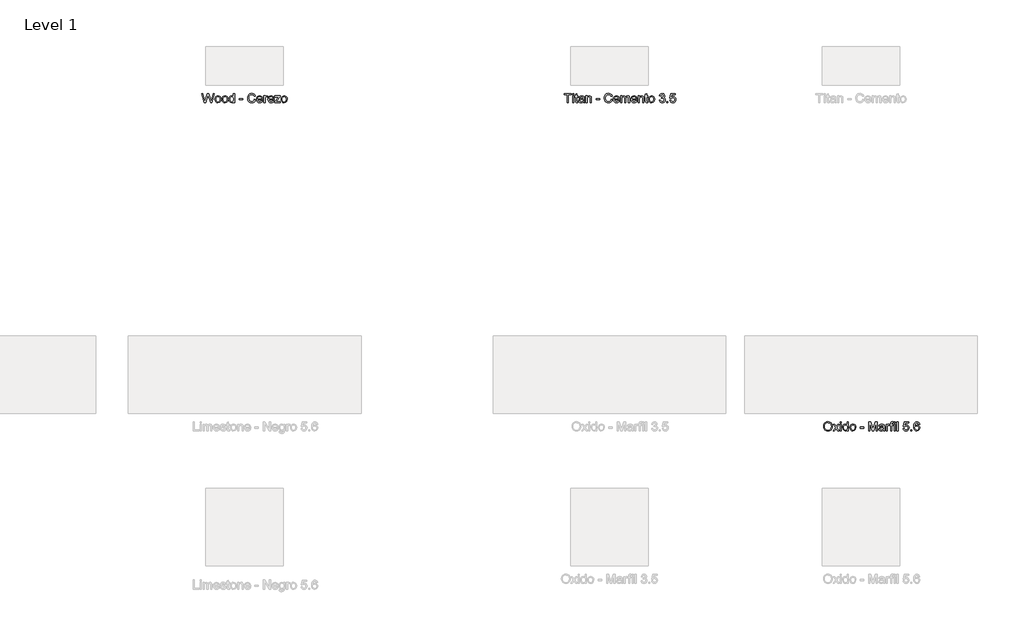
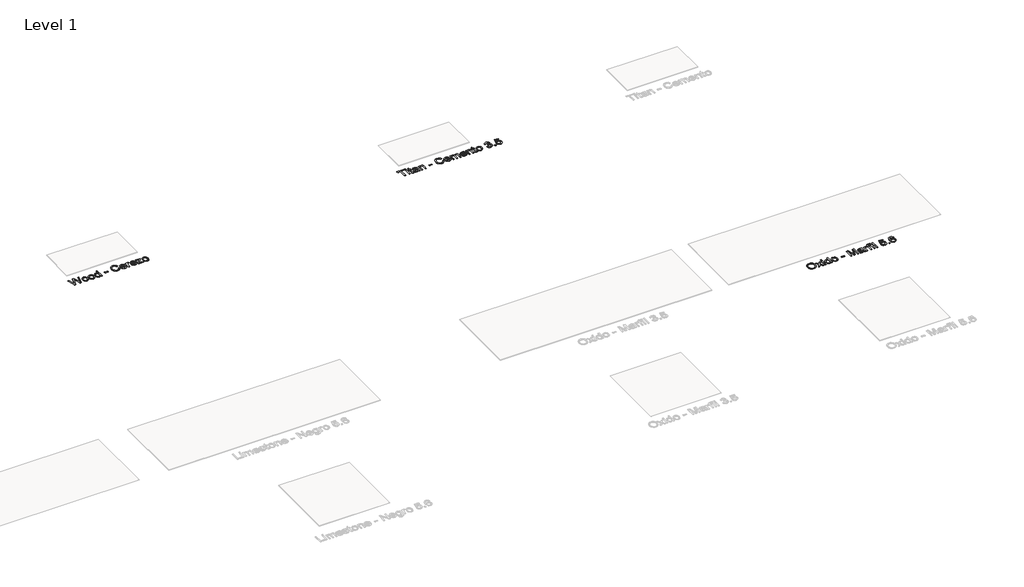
# One storey, part 31 of 80: 3 proxies.
"""IFC4 building model written with IfcOpenShell, lengths in millimetres."""

from ifc_helpers import new_model, si_unit, origin, origin_with_axes, place, context, project, spatial, polyline, outline, extrude, element, save

model = new_model("IFC4")

# Units and contexts
model_context = context("Model", 3, world=origin())
ifc_project = project(units=[si_unit("LENGTHUNIT", "METRE", prefix="MILLI")], contexts=[model_context])

# Site, building, storey
site = spatial("IfcSite", under=ifc_project)
building = spatial("IfcBuilding", under=site)
storey = spatial("IfcBuildingStorey", under=building, Name="Level 1", Elevation=0.0)

# Proxies
placement = place(None, origin())
element("IfcBuildingElementProxy", 1, Name="24\" Arial", ObjectType="24\" Arial", at=placement, inside=storey, context=model_context, shape_type="SweptSolid", body=[
    extrude(outline(polyline([(8292.6161998, -16597.3504862), (8296.5536998, -16571.2230824), (8308.3661998, -16551.4562555), (8326.4022575, -16539.0163516), (8349.0104306, -16534.869717), (8364.5080267, -16536.8168324), (8378.4046613, -16542.6581785), (8389.9431229, -16551.9826978), (8398.3661998, -16564.3793324), (8403.5152383, -16579.2495247), (8405.2315844, -16595.994717), (8403.425094, -16612.963467), (8398.0056229, -16628.0427939), (8389.2724498, -16640.4610632), (8377.5248536, -16649.4466401), (8363.7472094, -16654.8985632), (8348.9238921, -16656.7158709), (8333.1883152, -16654.7074574), (8319.2123536, -16648.682217), (8307.7027383, -16639.1846209), (8299.3661998, -16626.7591401), (8294.3036998, -16612.4622651), (8292.6161998, -16597.3504862)]), holes=[polyline([(8307.3854306, -16597.494717), (8310.3385556, -16615.9778901), (8319.1979306, -16630.0620247), (8332.5140363, -16638.9754862), (8348.8373536, -16641.9466401), (8365.3986517, -16638.9466401), (8378.7363921, -16629.9466401), (8387.5308633, -16615.4298132), (8390.4623536, -16595.8793324), (8385.4431229, -16571.5043324), (8379.2664402, -16562.2627459), (8370.7748536, -16555.3649093), (8349.096969, -16549.6389478), (8333.2099498, -16552.3973612), (8319.7027383, -16560.6726016), (8310.4647575, -16575.3949574), (8307.3854306, -16597.494717)])]), origin_with_axes(), (0.0, 0.0, 1.0), 2.0),
    extrude(outline(polyline([(8414.4623536, -16654.869717), (8446.0200459, -16611.2543324), (8416.3085075, -16568.1004862), (8434.0777383, -16568.1004862), (8448.4142767, -16588.869717), (8455.1065844, -16598.6774093), (8460.9046613, -16590.6581785), (8477.2315844, -16568.1004862), (8495.0008152, -16568.1004862), (8463.7892767, -16611.2543324), (8493.846969, -16654.869717), (8476.0777383, -16654.869717), (8457.9911998, -16628.6485632), (8454.6738921, -16623.8601016), (8432.2315844, -16654.869717), (8414.4623536, -16654.869717)])), origin_with_axes(), (0.0, 0.0, 1.0), 2.0),
    extrude(outline(polyline([(8506.7700459, -16551.4851016), (8506.7700459, -16536.7158709), (8521.5392767, -16536.7158709), (8521.5392767, -16551.4851016), (8506.7700459, -16551.4851016)])), origin_with_axes(), (0.0, 0.0, 1.0), 2.0),
    extrude(outline(polyline([(8506.7700459, -16654.869717), (8506.7700459, -16568.1004862), (8521.5392767, -16568.1004862), (8521.5392767, -16654.869717), (8506.7700459, -16654.869717)])), origin_with_axes(), (0.0, 0.0, 1.0), 2.0),
    extrude(outline(polyline([(8597.2315844, -16654.869717), (8597.2315844, -16640.9370247), (8587.4599498, -16652.7711593), (8573.9527383, -16656.7158709), (8555.6642767, -16651.0043324), (8542.7411998, -16635.0668324), (8538.1546613, -16611.5716401), (8542.3806229, -16588.0620247), (8547.659469, -16578.7375055), (8555.0440844, -16571.8793324), (8573.8950459, -16566.2543324), (8587.5104306, -16570.2783709), (8597.2315844, -16580.7351016), (8597.2315844, -16536.7158709), (8612.0008152, -16536.7158709), (8612.0008152, -16654.869717), (8597.2315844, -16654.869717)]), holes=[polyline([(8552.9238921, -16611.5139478), (8554.5897575, -16624.8733228), (8559.5873536, -16634.3745247), (8566.8493729, -16640.0536112), (8575.3085075, -16641.9466401), (8583.7640363, -16640.1401497), (8590.8421613, -16634.7206785), (8595.6342286, -16625.5872651), (8597.2315844, -16612.6389478), (8595.6053825, -16598.4826978), (8590.7267767, -16588.6677939), (8583.4683633, -16582.9346209), (8574.7027383, -16581.0235632), (8566.1570652, -16582.8588997), (8559.1546613, -16588.3649093), (8554.4815844, -16597.822842), (8552.9238921, -16611.5139478)])]), origin_with_axes(), (0.0, 0.0, 1.0), 2.0),
    extrude(outline(polyline([(8630.4623536, -16611.4851016), (8633.6570652, -16590.5644285), (8643.2411998, -16575.8601016), (8655.0825459, -16568.6557747), (8669.2604306, -16566.2543324), (8684.7760556, -16569.1786112), (8697.1690844, -16577.9514478), (8705.2928825, -16591.8805343), (8708.0008152, -16610.2735632), (8703.2123536, -16636.5524093), (8689.2652383, -16651.4226016), (8669.2604306, -16656.7158709), (8653.5573056, -16653.8024093), (8641.1786998, -16645.0620247), (8633.1414402, -16630.8408709), (8630.4623536, -16611.4851016)]), holes=[polyline([(8645.2315844, -16611.4562555), (8646.940719, -16624.822842), (8652.0681229, -16634.3456785), (8659.784469, -16640.0463997), (8669.2604306, -16641.9466401), (8678.6931229, -16640.0355824), (8686.3950459, -16634.3024093), (8691.5224498, -16624.6533709), (8693.2315844, -16610.994717), (8691.5116325, -16598.0175535), (8686.3517767, -16588.6245247), (8678.6390363, -16582.9238035), (8669.2604306, -16581.0235632), (8659.784469, -16582.916592), (8652.0681229, -16588.5956785), (8646.940719, -16598.0968805), (8645.2315844, -16611.4562555)])]), origin_with_axes(), (0.0, 0.0, 1.0), 2.0),
    extrude(outline(polyline([(8763.3854306, -16619.7927939), (8763.3854306, -16605.0235632), (8809.5392767, -16605.0235632), (8809.5392767, -16619.7927939), (8763.3854306, -16619.7927939)])), origin_with_axes(), (0.0, 0.0, 1.0), 2.0),
    extrude(outline(polyline([(8874.1546613, -16654.869717), (8874.1546613, -16536.7158709), (8899.5681229, -16536.7158709), (8923.7411998, -16619.994717), (8928.6161998, -16637.3889478), (8933.8950459, -16618.5524093), (8957.6642767, -16536.7158709), (8983.0777383, -16536.7158709), (8983.0777383, -16654.869717), (8968.3085075, -16654.869717), (8968.3085075, -16551.4851016), (8938.6258152, -16654.869717), (8918.6065844, -16654.869717), (8888.9238921, -16551.4851016), (8888.9238921, -16654.869717), (8874.1546613, -16654.869717)])), origin_with_axes(), (0.0, 0.0, 1.0), 2.0),
    extrude(outline(polyline([(9062.4623536, -16643.7927939), (9048.1402383, -16653.8024093), (9032.3181229, -16656.7158709), (9019.9755748, -16654.963467), (9010.8710075, -16649.7062555), (9005.2568248, -16641.7230824), (9003.3854306, -16631.7927939), (9006.2123536, -16620.1101016), (9013.6402383, -16611.6293324), (9023.9815844, -16606.7831785), (9036.7604306, -16604.5620247), (9062.3758152, -16599.4851016), (9062.4623536, -16596.1966401), (9058.3950459, -16585.2927939), (9042.0681229, -16581.0235632), (9027.1258152, -16583.8649093), (9020.0008152, -16593.9466401), (9005.2315844, -16592.1004862), (9011.6210075, -16577.6774093), (9024.4863921, -16569.2254862), (9043.971969, -16566.2543324), (9061.8710075, -16568.8793324), (9071.9815844, -16575.4706785), (9076.5104306, -16585.494717), (9077.2315844, -16598.4177939), (9077.2315844, -16616.7927939), (9077.9815844, -16642.4514478), (9080.9238921, -16654.869717), (9066.1546613, -16654.869717), (9062.4623536, -16643.7927939)]), holes=[polyline([(9062.4623536, -16614.2543324), (9038.6354306, -16618.7831785), (9025.9286998, -16621.1774093), (9020.1738921, -16625.0716401), (9018.1546613, -16630.7543324), (9022.5536998, -16638.744717), (9035.4623536, -16641.9466401), (9050.4046613, -16638.4129862), (9060.0392767, -16629.8601016), (9062.3758152, -16618.4370247), (9062.4623536, -16614.2543324)])]), origin_with_axes(), (0.0, 0.0, 1.0), 2.0),
    extrude(outline(polyline([(9097.5392767, -16654.869717), (9097.5392767, -16568.1004862), (9110.4623536, -16568.1004862), (9110.4623536, -16580.9370247), (9119.6354306, -16569.1101016), (9128.8661998, -16566.2543324), (9143.6931229, -16570.8120247), (9138.7604306, -16584.0524093), (9128.3758152, -16581.0235632), (9120.0248536, -16583.9370247), (9114.7027383, -16592.0139478), (9112.3085075, -16609.2639478), (9112.3085075, -16654.869717), (9097.5392767, -16654.869717)])), origin_with_axes(), (0.0, 0.0, 1.0), 2.0),
    extrude(outline(polyline([(9156.6161998, -16654.869717), (9156.6161998, -16582.869717), (9143.6931229, -16582.869717), (9143.6931229, -16568.1004862), (9156.6161998, -16568.1004862), (9156.6161998, -16559.3601016), (9158.1738921, -16547.0427939), (9165.7315844, -16538.244717), (9180.6161998, -16534.869717), (9194.0873536, -16536.4851016), (9191.9238921, -16550.3312555), (9183.4142767, -16549.6389478), (9174.1113921, -16552.0908709), (9171.3854306, -16561.2351016), (9171.3854306, -16568.1004862), (9188.0008152, -16568.1004862), (9188.0008152, -16582.869717), (9171.3854306, -16582.869717), (9171.3854306, -16654.869717), (9156.6161998, -16654.869717)])), origin_with_axes(), (0.0, 0.0, 1.0), 2.0),
    extrude(outline(polyline([(9200.9238921, -16551.4851016), (9200.9238921, -16536.7158709), (9215.6931229, -16536.7158709), (9215.6931229, -16551.4851016), (9200.9238921, -16551.4851016)])), origin_with_axes(), (0.0, 0.0, 1.0), 2.0),
    extrude(outline(polyline([(9200.9238921, -16654.869717), (9200.9238921, -16568.1004862), (9215.6931229, -16568.1004862), (9215.6931229, -16654.869717), (9200.9238921, -16654.869717)])), origin_with_axes(), (0.0, 0.0, 1.0), 2.0),
    extrude(outline(polyline([(9237.846969, -16654.869717), (9237.846969, -16536.7158709), (9252.6161998, -16536.7158709), (9252.6161998, -16654.869717), (9237.846969, -16654.869717)])), origin_with_axes(), (0.0, 0.0, 1.0), 2.0),
    extrude(outline(polyline([(9317.2315844, -16623.4851016), (9332.0008152, -16621.6389478), (9339.4431229, -16636.8552939), (9354.8758152, -16641.9466401), (9365.4623536, -16640.1762074), (9373.3950459, -16634.8649093), (9378.3493729, -16626.6257266), (9380.0008152, -16616.0716401), (9378.4539402, -16606.1341401), (9373.8133152, -16598.5331785), (9366.0428825, -16593.7086593), (9355.1065844, -16592.1004862), (9342.1402383, -16594.6677939), (9333.846969, -16601.3312555), (9319.0777383, -16599.4851016), (9332.0008152, -16538.5620247), (9389.2315844, -16538.5620247), (9389.2315844, -16553.3312555), (9343.9431229, -16553.3312555), (9337.6258152, -16585.869717), (9348.1762959, -16579.4658709), (9359.2315844, -16577.3312555), (9373.0308633, -16579.9778901), (9384.4863921, -16587.9177939), (9392.1991325, -16600.0187555), (9394.7700459, -16615.1485632), (9392.4551421, -16629.9177939), (9385.5104306, -16642.5524093), (9372.2123536, -16653.1750055), (9354.8181229, -16656.7158709), (9340.3121133, -16654.4406305), (9328.7556229, -16647.6149093), (9320.8337479, -16637.0319766), (9317.2315844, -16623.4851016)])), origin_with_axes(), (0.0, 0.0, 1.0), 2.0),
    extrude(outline(polyline([(9415.0777383, -16654.869717), (9415.0777383, -16640.1004862), (9429.846969, -16640.1004862), (9429.846969, -16654.869717), (9415.0777383, -16654.869717)])), origin_with_axes(), (0.0, 0.0, 1.0), 2.0),
    extrude(outline(polyline([(9529.5392767, -16568.1004862), (9514.7700459, -16569.9466401), (9509.1738921, -16557.6293324), (9502.4743729, -16553.0211593), (9494.3758152, -16551.4851016), (9481.0488921, -16555.0620247), (9470.9671613, -16568.4899093), (9466.7700459, -16594.8120247), (9479.7940844, -16583.0283709), (9495.9335075, -16579.1774093), (9509.5777383, -16581.8096209), (9521.0296613, -16589.7062555), (9528.7964883, -16601.7711593), (9531.3854306, -16616.9081785), (9526.5104306, -16637.2879862), (9513.096969, -16651.7110632), (9493.7411998, -16656.7158709), (9476.9851902, -16653.3985632), (9463.6402383, -16643.4466401), (9454.9106709, -16625.8793324), (9452.0008152, -16599.7158709), (9455.2315844, -16570.3000055), (9464.9238921, -16550.1870247), (9478.1570652, -16540.0836593), (9495.2988921, -16536.7158709), (9508.2580267, -16538.8000055), (9518.6354306, -16545.0524093), (9525.9046613, -16554.9826978), (9529.5392767, -16568.1004862)]), holes=[polyline([(9466.7700459, -16616.6774093), (9470.1883152, -16629.4706785), (9479.2748536, -16638.7591401), (9492.5873536, -16641.9466401), (9502.3337479, -16640.2951978), (9509.9960075, -16635.3408709), (9514.9611517, -16627.5524093), (9516.6161998, -16617.3985632), (9514.9827863, -16607.6521689), (9510.0825459, -16600.2206785), (9502.2904786, -16595.5151497), (9491.9815844, -16593.9466401), (9482.2496133, -16595.5151497), (9474.1113921, -16600.2206785), (9468.6053825, -16607.4718805), (9466.7700459, -16616.6774093)])]), origin_with_axes(), (0.0, 0.0, 1.0), 2.0),
])
element("IfcBuildingElementProxy", 2, Name="24\" Arial", ObjectType="24\" Arial", at=placement, inside=storey, context=model_context, shape_type="SweptSolid", body=[
    extrude(outline(polyline([(314.6835075, -12422.5921493), (282.4623536, -12304.4383031), (297.6931229, -12304.4383031), (316.3854306, -12382.0921493), (322.1546613, -12406.0633031), (328.3277383, -12384.86138), (351.7508152, -12304.4383031), (373.7027383, -12304.4383031), (390.721969, -12362.73638), (403.3854306, -12406.0633031), (408.9815844, -12382.784457), (427.846969, -12304.4383031), (443.0777383, -12304.4383031), (410.8277383, -12422.5921493), (395.0488921, -12422.5921493), (366.721969, -12331.4383031), (362.7700459, -12318.7171493), (358.3277383, -12334.034457), (332.5104306, -12422.5921493), (314.6835075, -12422.5921493)])), origin_with_axes(), (0.0, 0.0, 1.0), 2.0),
    extrude(outline(polyline([(452.3085075, -12379.2075339), (455.503219, -12358.2868608), (465.0873536, -12343.5825339), (476.9286998, -12336.378207), (491.1065844, -12333.9767646), (506.6222094, -12336.9010435), (519.0152383, -12345.67388), (527.1390363, -12359.6029666), (529.846969, -12377.9959954), (525.0585075, -12404.2748416), (511.1113921, -12419.1450339), (491.1065844, -12424.4383031), (475.4034594, -12421.5248416), (463.0248536, -12412.784457), (454.987594, -12398.5633031), (452.3085075, -12379.2075339)]), holes=[polyline([(467.0777383, -12379.1786877), (468.7868729, -12392.5452743), (473.9142767, -12402.0681108), (481.6306229, -12407.768832), (491.1065844, -12409.6690723), (500.5392767, -12407.7580146), (508.2411998, -12402.0248416), (513.3686036, -12392.3758031), (515.0777383, -12378.7171493), (513.3577863, -12365.7399858), (508.1979306, -12356.346957), (500.4851902, -12350.6462358), (491.1065844, -12348.7459954), (481.6306229, -12350.6390243), (473.9142767, -12356.3181108), (468.7868729, -12365.8193127), (467.0777383, -12379.1786877)])]), origin_with_axes(), (0.0, 0.0, 1.0), 2.0),
    extrude(outline(polyline([(542.7700459, -12379.2075339), (545.9647575, -12358.2868608), (555.5488921, -12343.5825339), (567.3902383, -12336.378207), (581.5681229, -12333.9767646), (597.0837479, -12336.9010435), (609.4767767, -12345.67388), (617.6005748, -12359.6029666), (620.3085075, -12377.9959954), (615.5200459, -12404.2748416), (601.5729306, -12419.1450339), (581.5681229, -12424.4383031), (565.8649979, -12421.5248416), (553.4863921, -12412.784457), (545.4491325, -12398.5633031), (542.7700459, -12379.2075339)]), holes=[polyline([(557.5392767, -12379.1786877), (559.2484113, -12392.5452743), (564.3758152, -12402.0681108), (572.0921613, -12407.768832), (581.5681229, -12409.6690723), (591.0008152, -12407.7580146), (598.7027383, -12402.0248416), (603.8301421, -12392.3758031), (605.5392767, -12378.7171493), (603.8193248, -12365.7399858), (598.659469, -12356.346957), (590.9467286, -12350.6462358), (581.5681229, -12348.7459954), (572.0921613, -12350.6390243), (564.3758152, -12356.3181108), (559.2484113, -12365.8193127), (557.5392767, -12379.1786877)])]), origin_with_axes(), (0.0, 0.0, 1.0), 2.0),
    extrude(outline(polyline([(690.4623536, -12422.5921493), (690.4623536, -12408.659457), (680.690719, -12420.4935916), (667.1835075, -12424.4383031), (648.8950459, -12418.7267646), (635.971969, -12402.7892646), (631.3854306, -12379.2940723), (635.6113921, -12355.784457), (640.8902383, -12346.4599377), (648.2748536, -12339.6017646), (667.1258152, -12333.9767646), (680.7411998, -12338.0008031), (690.4623536, -12348.4575339), (690.4623536, -12304.4383031), (705.2315844, -12304.4383031), (705.2315844, -12422.5921493), (690.4623536, -12422.5921493)]), holes=[polyline([(646.1546613, -12379.23638), (647.8205267, -12392.595755), (652.8181229, -12402.096957), (660.0801421, -12407.7760435), (668.5392767, -12409.6690723), (676.9948056, -12407.862582), (684.0729306, -12402.4431108), (688.8649979, -12393.3096973), (690.4623536, -12380.36138), (688.8361517, -12366.20513), (683.9575459, -12356.3902262), (676.6991325, -12350.6570531), (667.9335075, -12348.7459954), (659.3878344, -12350.581332), (652.3854306, -12356.0873416), (647.7123536, -12365.5452743), (646.1546613, -12379.23638)])]), origin_with_axes(), (0.0, 0.0, 1.0), 2.0),
    extrude(outline(polyline([(766.1546613, -12387.5152262), (766.1546613, -12372.7459954), (812.3085075, -12372.7459954), (812.3085075, -12387.5152262), (766.1546613, -12387.5152262)])), origin_with_axes(), (0.0, 0.0, 1.0), 2.0),
    extrude(outline(polyline([(960.0008152, -12380.5921493), (974.7700459, -12384.3998416), (967.9551421, -12401.6101781), (957.2604306, -12414.1834954), (943.2123536, -12421.8746012), (926.3373536, -12424.4383031), (909.206344, -12422.4983993), (895.6017767, -12416.6786877), (885.1738921, -12407.1810916), (877.5729306, -12394.2075339), (872.9323056, -12378.95513), (871.3854306, -12362.6209954), (873.1342286, -12345.39263), (878.3806229, -12330.5152262), (886.8505748, -12318.4611396), (898.2700459, -12309.7027262), (911.8133152, -12304.3697935), (926.6546613, -12302.5921493), (942.8481709, -12304.89263), (956.2363921, -12311.7940723), (966.4010556, -12322.8709954), (972.9238921, -12337.6979185), (958.1546613, -12341.2171493), (953.034469, -12330.4467166), (946.0392767, -12323.0584954), (937.0825459, -12318.7856589), (926.0777383, -12317.36138), (913.3926421, -12318.940707), (902.971969, -12323.6786877), (895.0645171, -12331.0777262), (889.9190844, -12340.6402262), (886.1546613, -12362.5921493), (890.6113921, -12388.034457), (896.3085075, -12397.5356589), (904.4863921, -12404.2892646), (924.8661998, -12409.6690723), (937.1943248, -12407.8373416), (947.4671613, -12402.3421493), (955.2231709, -12393.2411877), (960.0008152, -12380.5921493)])), origin_with_axes(), (0.0, 0.0, 1.0), 2.0),
    extrude(outline(polyline([(1053.9815844, -12396.7459954), (1068.4623536, -12398.5921493), (1063.2448056, -12409.503207), (1054.9190844, -12417.659457), (1043.6726902, -12422.7435916), (1029.6931229, -12424.4383031), (1012.3637959, -12421.5140243), (999.0296613, -12412.7411877), (990.5272575, -12398.689505), (987.6931229, -12379.9286877), (990.5561036, -12360.5368608), (999.1450459, -12346.034457), (1012.2988921, -12336.9911877), (1028.8565844, -12333.9767646), (1044.8986517, -12336.9839762), (1057.7171613, -12346.0056108), (1066.1222094, -12360.4791685), (1068.9238921, -12379.8421493), (1068.8373536, -12383.8229185), (1002.4623536, -12383.8229185), (1005.018844, -12394.878207), (1010.9575459, -12403.0056108), (1019.5284594, -12408.003207), (1029.9815844, -12409.6690723), (1044.4623536, -12406.5825339), (1053.9815844, -12396.7459954)]), holes=[polyline([(1002.4623536, -12369.0536877), (1054.1546613, -12369.0536877), (1048.2411998, -12355.6690723), (1039.6306229, -12350.4767646), (1028.7988921, -12348.7459954), (1010.6113921, -12354.2700339), (1004.8890363, -12360.7279666), (1002.4623536, -12369.0536877)])]), origin_with_axes(), (0.0, 0.0, 1.0), 2.0),
    extrude(outline(polyline([(1083.6931229, -12422.5921493), (1083.6931229, -12335.8229185), (1096.6161998, -12335.8229185), (1096.6161998, -12348.659457), (1105.7892767, -12336.8325339), (1115.0200459, -12333.9767646), (1129.846969, -12338.534457), (1124.9142767, -12351.7748416), (1114.5296613, -12348.7459954), (1106.1786998, -12351.659457), (1100.8565844, -12359.73638), (1098.4623536, -12376.98638), (1098.4623536, -12422.5921493), (1083.6931229, -12422.5921493)])), origin_with_axes(), (0.0, 0.0, 1.0), 2.0),
    extrude(outline(polyline([(1199.8277383, -12396.7459954), (1214.3085075, -12398.5921493), (1209.0909594, -12409.503207), (1200.7652383, -12417.659457), (1189.518844, -12422.7435916), (1175.5392767, -12424.4383031), (1158.2099498, -12421.5140243), (1144.8758152, -12412.7411877), (1136.3734113, -12398.689505), (1133.5392767, -12379.9286877), (1136.4022575, -12360.5368608), (1144.9911998, -12346.034457), (1158.1450459, -12336.9911877), (1174.7027383, -12333.9767646), (1190.7448056, -12336.9839762), (1203.5633152, -12346.0056108), (1211.9683633, -12360.4791685), (1214.7700459, -12379.8421493), (1214.6835075, -12383.8229185), (1148.3085075, -12383.8229185), (1150.8649979, -12394.878207), (1156.8036998, -12403.0056108), (1165.3746133, -12408.003207), (1175.8277383, -12409.6690723), (1190.3085075, -12406.5825339), (1199.8277383, -12396.7459954)]), holes=[polyline([(1148.3085075, -12369.0536877), (1200.0008152, -12369.0536877), (1194.0873536, -12355.6690723), (1185.4767767, -12350.4767646), (1174.6450459, -12348.7459954), (1156.4575459, -12354.2700339), (1150.7351902, -12360.7279666), (1148.3085075, -12369.0536877)])]), origin_with_axes(), (0.0, 0.0, 1.0), 2.0),
    extrude(outline(polyline([(1220.3085075, -12422.5921493), (1220.3085075, -12408.6883031), (1271.2796613, -12350.5921493), (1256.1931229, -12350.5921493), (1224.0008152, -12350.5921493), (1224.0008152, -12335.8229185), (1292.3085075, -12335.8229185), (1292.3085075, -12348.3709954), (1247.1065844, -12399.9190723), (1240.1835075, -12407.8229185), (1257.2604306, -12407.8229185), (1294.1546613, -12407.8229185), (1294.1546613, -12422.5921493), (1220.3085075, -12422.5921493)])), origin_with_axes(), (0.0, 0.0, 1.0), 2.0),
    extrude(outline(polyline([(1305.2315844, -12379.2075339), (1308.4262959, -12358.2868608), (1318.0104306, -12343.5825339), (1329.8517767, -12336.378207), (1344.0296613, -12333.9767646), (1359.5452863, -12336.9010435), (1371.9383152, -12345.67388), (1380.0621133, -12359.6029666), (1382.7700459, -12377.9959954), (1377.9815844, -12404.2748416), (1364.034469, -12419.1450339), (1344.0296613, -12424.4383031), (1328.3265363, -12421.5248416), (1315.9479306, -12412.784457), (1307.9106709, -12398.5633031), (1305.2315844, -12379.2075339)]), holes=[polyline([(1320.0008152, -12379.1786877), (1321.7099498, -12392.5452743), (1326.8373536, -12402.0681108), (1334.5536998, -12407.768832), (1344.0296613, -12409.6690723), (1353.4623536, -12407.7580146), (1361.1642767, -12402.0248416), (1366.2916806, -12392.3758031), (1368.0008152, -12378.7171493), (1366.2808633, -12365.7399858), (1361.1210075, -12356.346957), (1353.4082671, -12350.6462358), (1344.0296613, -12348.7459954), (1334.5536998, -12350.6390243), (1326.8373536, -12356.3181108), (1321.7099498, -12365.8193127), (1320.0008152, -12379.1786877)])]), origin_with_axes(), (0.0, 0.0, 1.0), 2.0),
])
element("IfcBuildingElementProxy", 3, Name="24\" Arial", ObjectType="24\" Arial", at=placement, inside=storey, context=model_context, shape_type="SweptSolid", body=[
    extrude(outline(polyline([(4989.846969, -12422.5921493), (4989.846969, -12319.2075339), (4951.0777383, -12319.2075339), (4951.0777383, -12304.4383031), (5043.3854306, -12304.4383031), (5043.3854306, -12319.2075339), (5004.6161998, -12319.2075339), (5004.6161998, -12422.5921493), (4989.846969, -12422.5921493)])), origin_with_axes(), (0.0, 0.0, 1.0), 2.0),
    extrude(outline(polyline([(5058.1546613, -12422.5921493), (5058.1546613, -12335.8229185), (5072.9238921, -12335.8229185), (5072.9238921, -12422.5921493), (5058.1546613, -12422.5921493)])), origin_with_axes(), (0.0, 0.0, 1.0), 2.0),
    extrude(outline(polyline([(5058.1546613, -12319.2075339), (5058.1546613, -12304.4383031), (5072.9238921, -12304.4383031), (5072.9238921, -12319.2075339), (5058.1546613, -12319.2075339)])), origin_with_axes(), (0.0, 0.0, 1.0), 2.0),
    extrude(outline(polyline([(5126.4623536, -12410.2748416), (5128.3085075, -12423.0248416), (5117.2604306, -12424.4383031), (5104.8854306, -12421.98638), (5098.7123536, -12415.5536877), (5096.9238921, -12398.7940723), (5096.9238921, -12350.5921493), (5085.846969, -12350.5921493), (5085.846969, -12335.8229185), (5096.9238921, -12335.8229185), (5096.9238921, -12314.73638), (5111.6931229, -12306.0536877), (5111.6931229, -12335.8229185), (5126.4623536, -12335.8229185), (5126.4623536, -12350.5921493), (5111.6931229, -12350.5921493), (5111.6931229, -12398.36138), (5112.471969, -12405.9767646), (5114.9960075, -12408.67388), (5120.0296613, -12409.6690723), (5126.4623536, -12410.2748416)])), origin_with_axes(), (0.0, 0.0, 1.0), 2.0),
    extrude(outline(polyline([(5196.6161998, -12411.5152262), (5182.2940844, -12421.5248416), (5166.471969, -12424.4383031), (5154.1294209, -12422.6858993), (5145.0248536, -12417.4286877), (5139.4106709, -12409.4455146), (5137.5392767, -12399.5152262), (5140.3661998, -12387.8325339), (5147.7940844, -12379.3517646), (5158.1354306, -12374.5056108), (5170.9142767, -12372.284457), (5196.5296613, -12367.2075339), (5196.6161998, -12363.9190723), (5192.5488921, -12353.0152262), (5176.221969, -12348.7459954), (5161.2796613, -12351.5873416), (5154.1546613, -12361.6690723), (5139.3854306, -12359.8229185), (5145.7748536, -12345.3998416), (5158.6402383, -12336.9479185), (5178.1258152, -12333.9767646), (5196.0248536, -12336.6017646), (5206.1354306, -12343.1931108), (5210.6642767, -12353.2171493), (5211.3854306, -12366.1402262), (5211.3854306, -12384.5152262), (5212.1354306, -12410.17388), (5215.0777383, -12422.5921493), (5200.3085075, -12422.5921493), (5196.6161998, -12411.5152262)]), holes=[polyline([(5196.6161998, -12381.9767646), (5172.7892767, -12386.5056108), (5160.0825459, -12388.8998416), (5154.3277383, -12392.7940723), (5152.3085075, -12398.4767646), (5156.7075459, -12406.4671493), (5169.6161998, -12409.6690723), (5184.5585075, -12406.1354185), (5194.1931229, -12397.5825339), (5196.5296613, -12386.159457), (5196.6161998, -12381.9767646)])]), origin_with_axes(), (0.0, 0.0, 1.0), 2.0),
    extrude(outline(polyline([(5231.6931229, -12422.5921493), (5231.6931229, -12335.8229185), (5246.4623536, -12335.8229185), (5246.4623536, -12347.9383031), (5257.7556229, -12337.4671493), (5273.1738921, -12333.9767646), (5287.1210075, -12336.7892646), (5296.6402383, -12344.17388), (5301.0681229, -12355.034457), (5301.846969, -12369.3133031), (5301.846969, -12422.5921493), (5287.0777383, -12422.5921493), (5287.0777383, -12371.3036877), (5285.3758152, -12358.23638), (5279.3613921, -12351.3277262), (5269.221969, -12348.7459954), (5253.1979306, -12354.5440723), (5248.1462479, -12362.9455146), (5246.4623536, -12376.5536877), (5246.4623536, -12422.5921493), (5231.6931229, -12422.5921493)])), origin_with_axes(), (0.0, 0.0, 1.0), 2.0),
    extrude(outline(polyline([(5360.9238921, -12387.5152262), (5360.9238921, -12372.7459954), (5407.0777383, -12372.7459954), (5407.0777383, -12387.5152262), (5360.9238921, -12387.5152262)])), origin_with_axes(), (0.0, 0.0, 1.0), 2.0),
    extrude(outline(polyline([(5554.7700459, -12380.5921493), (5569.5392767, -12384.3998416), (5562.7243729, -12401.6101781), (5552.0296613, -12414.1834954), (5537.9815844, -12421.8746012), (5521.1065844, -12424.4383031), (5503.9755748, -12422.4983993), (5490.3710075, -12416.6786877), (5479.9431229, -12407.1810916), (5472.3421613, -12394.2075339), (5467.7015363, -12378.95513), (5466.1546613, -12362.6209954), (5467.9034594, -12345.39263), (5473.1498536, -12330.5152262), (5481.6198056, -12318.4611396), (5493.0392767, -12309.7027262), (5506.5825459, -12304.3697935), (5521.4238921, -12302.5921493), (5537.6174017, -12304.89263), (5551.0056229, -12311.7940723), (5561.1702863, -12322.8709954), (5567.6931229, -12337.6979185), (5552.9238921, -12341.2171493), (5547.8036998, -12330.4467166), (5540.8085075, -12323.0584954), (5531.8517767, -12318.7856589), (5520.846969, -12317.36138), (5508.1618729, -12318.940707), (5497.7411998, -12323.6786877), (5489.8337479, -12331.0777262), (5484.6883152, -12340.6402262), (5480.9238921, -12362.5921493), (5485.3806229, -12388.034457), (5491.0777383, -12397.5356589), (5499.2556229, -12404.2892646), (5519.6354306, -12409.6690723), (5531.9635556, -12407.8373416), (5542.2363921, -12402.3421493), (5549.9924017, -12393.2411877), (5554.7700459, -12380.5921493)])), origin_with_axes(), (0.0, 0.0, 1.0), 2.0),
    extrude(outline(polyline([(5648.7508152, -12396.7459954), (5663.2315844, -12398.5921493), (5658.0140363, -12409.503207), (5649.6883152, -12417.659457), (5638.4419209, -12422.7435916), (5624.4623536, -12424.4383031), (5607.1330267, -12421.5140243), (5593.7988921, -12412.7411877), (5585.2964883, -12398.689505), (5582.4623536, -12379.9286877), (5585.3253344, -12360.5368608), (5593.9142767, -12346.034457), (5607.0681229, -12336.9911877), (5623.6258152, -12333.9767646), (5639.6678825, -12336.9839762), (5652.4863921, -12346.0056108), (5660.8914402, -12360.4791685), (5663.6931229, -12379.8421493), (5663.6065844, -12383.8229185), (5597.2315844, -12383.8229185), (5599.7880748, -12394.878207), (5605.7267767, -12403.0056108), (5614.2976902, -12408.003207), (5624.7508152, -12409.6690723), (5639.2315844, -12406.5825339), (5648.7508152, -12396.7459954)]), holes=[polyline([(5597.2315844, -12369.0536877), (5648.9238921, -12369.0536877), (5643.0104306, -12355.6690723), (5634.3998536, -12350.4767646), (5623.5681229, -12348.7459954), (5605.3806229, -12354.2700339), (5599.6582671, -12360.7279666), (5597.2315844, -12369.0536877)])]), origin_with_axes(), (0.0, 0.0, 1.0), 2.0),
    extrude(outline(polyline([(5678.4623536, -12422.5921493), (5678.4623536, -12335.8229185), (5693.2315844, -12335.8229185), (5693.2315844, -12350.1017646), (5703.3854306, -12338.4046493), (5717.8373536, -12333.9767646), (5732.6354306, -12338.4911877), (5740.7700459, -12351.1402262), (5752.2940844, -12338.26763), (5766.846969, -12333.9767646), (5777.9491325, -12335.7616204), (5786.159469, -12341.1161877), (5791.2327863, -12350.1846973), (5792.9238921, -12363.11138), (5792.9238921, -12422.5921493), (5778.1546613, -12422.5921493), (5778.1546613, -12369.4575339), (5776.784469, -12357.1258031), (5771.8229306, -12351.0536877), (5763.3854306, -12348.7459954), (5755.3842286, -12350.2243608), (5748.8613921, -12354.659457), (5744.5236517, -12362.3541685), (5743.0777383, -12373.61138), (5743.0777383, -12422.5921493), (5728.3085075, -12422.5921493), (5728.3085075, -12367.8133031), (5724.8902383, -12353.5056108), (5713.6835075, -12348.7459954), (5702.7508152, -12351.9190723), (5695.4815844, -12361.2075339), (5693.2315844, -12378.8325339), (5693.2315844, -12422.5921493), (5678.4623536, -12422.5921493)])), origin_with_axes(), (0.0, 0.0, 1.0), 2.0),
    extrude(outline(polyline([(5875.8277383, -12396.7459954), (5890.3085075, -12398.5921493), (5885.0909594, -12409.503207), (5876.7652383, -12417.659457), (5865.518844, -12422.7435916), (5851.5392767, -12424.4383031), (5834.2099498, -12421.5140243), (5820.8758152, -12412.7411877), (5812.3734113, -12398.689505), (5809.5392767, -12379.9286877), (5812.4022575, -12360.5368608), (5820.9911998, -12346.034457), (5834.1450459, -12336.9911877), (5850.7027383, -12333.9767646), (5866.7448056, -12336.9839762), (5879.5633152, -12346.0056108), (5887.9683633, -12360.4791685), (5890.7700459, -12379.8421493), (5890.6835075, -12383.8229185), (5824.3085075, -12383.8229185), (5826.8649979, -12394.878207), (5832.8036998, -12403.0056108), (5841.3746133, -12408.003207), (5851.8277383, -12409.6690723), (5866.3085075, -12406.5825339), (5875.8277383, -12396.7459954)]), holes=[polyline([(5824.3085075, -12369.0536877), (5876.0008152, -12369.0536877), (5870.0873536, -12355.6690723), (5861.4767767, -12350.4767646), (5850.6450459, -12348.7459954), (5832.4575459, -12354.2700339), (5826.7351902, -12360.7279666), (5824.3085075, -12369.0536877)])]), origin_with_axes(), (0.0, 0.0, 1.0), 2.0),
    extrude(outline(polyline([(5905.5392767, -12422.5921493), (5905.5392767, -12335.8229185), (5920.3085075, -12335.8229185), (5920.3085075, -12347.9383031), (5931.6017767, -12337.4671493), (5947.0200459, -12333.9767646), (5960.9671613, -12336.7892646), (5970.4863921, -12344.17388), (5974.9142767, -12355.034457), (5975.6931229, -12369.3133031), (5975.6931229, -12422.5921493), (5960.9238921, -12422.5921493), (5960.9238921, -12371.3036877), (5959.221969, -12358.23638), (5953.2075459, -12351.3277262), (5943.0681229, -12348.7459954), (5927.0440844, -12354.5440723), (5921.9924017, -12362.9455146), (5920.3085075, -12376.5536877), (5920.3085075, -12422.5921493), (5905.5392767, -12422.5921493)])), origin_with_axes(), (0.0, 0.0, 1.0), 2.0),
    extrude(outline(polyline([(6027.3854306, -12410.2748416), (6029.2315844, -12423.0248416), (6018.1835075, -12424.4383031), (6005.8085075, -12421.98638), (5999.6354306, -12415.5536877), (5997.846969, -12398.7940723), (5997.846969, -12350.5921493), (5986.7700459, -12350.5921493), (5986.7700459, -12335.8229185), (5997.846969, -12335.8229185), (5997.846969, -12314.73638), (6012.6161998, -12306.0536877), (6012.6161998, -12335.8229185), (6027.3854306, -12335.8229185), (6027.3854306, -12350.5921493), (6012.6161998, -12350.5921493), (6012.6161998, -12398.36138), (6013.3950459, -12405.9767646), (6015.9190844, -12408.67388), (6020.9527383, -12409.6690723), (6027.3854306, -12410.2748416)])), origin_with_axes(), (0.0, 0.0, 1.0), 2.0),
    extrude(outline(polyline([(6038.4623536, -12379.2075339), (6041.6570652, -12358.2868608), (6051.2411998, -12343.5825339), (6063.0825459, -12336.378207), (6077.2604306, -12333.9767646), (6092.7760556, -12336.9010435), (6105.1690844, -12345.67388), (6113.2928825, -12359.6029666), (6116.0008152, -12377.9959954), (6111.2123536, -12404.2748416), (6097.2652383, -12419.1450339), (6077.2604306, -12424.4383031), (6061.5573056, -12421.5248416), (6049.1786998, -12412.784457), (6041.1414402, -12398.5633031), (6038.4623536, -12379.2075339)]), holes=[polyline([(6053.2315844, -12379.1786877), (6054.940719, -12392.5452743), (6060.0681229, -12402.0681108), (6067.784469, -12407.768832), (6077.2604306, -12409.6690723), (6086.6931229, -12407.7580146), (6094.3950459, -12402.0248416), (6099.5224498, -12392.3758031), (6101.2315844, -12378.7171493), (6099.5116325, -12365.7399858), (6094.3517767, -12356.346957), (6086.6390363, -12350.6462358), (6077.2604306, -12348.7459954), (6067.784469, -12350.6390243), (6060.0681229, -12356.3181108), (6054.940719, -12365.8193127), (6053.2315844, -12379.1786877)])]), origin_with_axes(), (0.0, 0.0, 1.0), 2.0),
    extrude(outline(polyline([(6175.0777383, -12391.2075339), (6189.846969, -12389.36138), (6197.9960075, -12404.909457), (6213.2411998, -12409.6690723), (6223.3661998, -12408.0320531), (6231.1835075, -12403.1209954), (6236.1811036, -12395.7940723), (6237.846969, -12386.909457), (6236.1955267, -12378.4755627), (6231.2411998, -12371.6354185), (6223.7411998, -12367.1029666), (6214.4527383, -12365.5921493), (6204.096969, -12367.2075339), (6205.7411998, -12352.4383031), (6208.1065844, -12352.61138), (6224.8661998, -12348.3709954), (6230.4479306, -12342.9911877), (6232.3085075, -12335.3325339), (6226.9142767, -12323.7796493), (6213.0104306, -12319.2075339), (6198.9335075, -12323.8229185), (6191.6931229, -12337.6690723), (6176.9238921, -12335.8229185), (6181.2724498, -12322.5608993), (6189.0104306, -12312.659457), (6199.596969, -12306.4935916), (6212.4911998, -12304.4383031), (6230.3036998, -12308.4911877), (6242.7652383, -12319.5681108), (6247.0777383, -12334.4671493), (6242.9815844, -12348.0825339), (6230.8661998, -12357.86138), (6240.1113921, -12361.596957), (6246.9623536, -12367.9575339), (6251.2027383, -12376.596957), (6252.6161998, -12387.1690723), (6249.7892767, -12401.5633031), (6241.3085075, -12413.5921493), (6228.5080267, -12421.7267646), (6212.721969, -12424.4383031), (6198.4431229, -12422.1233993), (6186.8181229, -12415.1786877), (6178.7339883, -12404.5560916), (6175.0777383, -12391.2075339)])), origin_with_axes(), (0.0, 0.0, 1.0), 2.0),
    extrude(outline(polyline([(6272.9238921, -12422.5921493), (6272.9238921, -12407.8229185), (6287.6931229, -12407.8229185), (6287.6931229, -12422.5921493), (6272.9238921, -12422.5921493)])), origin_with_axes(), (0.0, 0.0, 1.0), 2.0),
    extrude(outline(polyline([(6311.6931229, -12391.2075339), (6326.4623536, -12389.36138), (6333.9046613, -12404.5777262), (6349.3373536, -12409.6690723), (6359.9238921, -12407.8986396), (6367.8565844, -12402.5873416), (6372.8109113, -12394.3481589), (6374.4623536, -12383.7940723), (6372.9154786, -12373.8565723), (6368.2748536, -12366.2556108), (6360.5044209, -12361.4310916), (6349.5681229, -12359.8229185), (6336.6017767, -12362.3902262), (6328.3085075, -12369.0536877), (6313.5392767, -12367.2075339), (6326.4623536, -12306.284457), (6383.6931229, -12306.284457), (6383.6931229, -12321.0536877), (6338.4046613, -12321.0536877), (6332.0873536, -12353.5921493), (6342.6378344, -12347.1883031), (6353.6931229, -12345.0536877), (6367.4924017, -12347.7003223), (6378.9479306, -12355.6402262), (6386.6606709, -12367.7411877), (6389.2315844, -12382.8709954), (6386.9166806, -12397.6402262), (6379.971969, -12410.2748416), (6366.6738921, -12420.8974377), (6349.2796613, -12424.4383031), (6334.7736517, -12422.1630627), (6323.2171613, -12415.3373416), (6315.2952863, -12404.7544089), (6311.6931229, -12391.2075339)])), origin_with_axes(), (0.0, 0.0, 1.0), 2.0),
])

save(model, "model.ifc")
